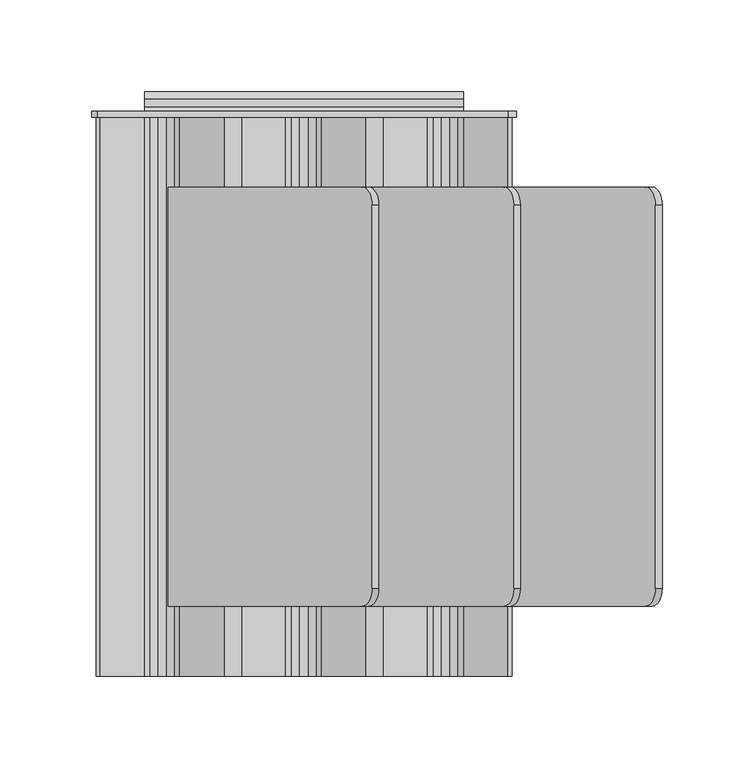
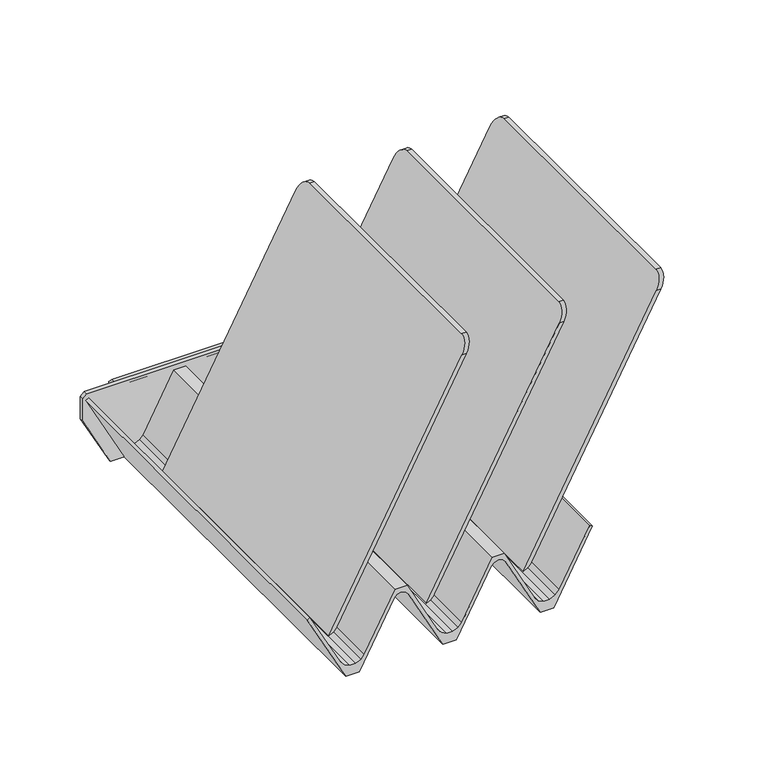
"""IFC4 building model written with IfcOpenShell, lengths in millimetres: furniture geometry."""

from ifc_helpers import new_model, si_unit, point, frame, frame_2d, origin, place, context, project, spatial, polyline, circle_curve, ellipse_curve, trimmed, segment, composite_curve, outline, extrude, source, transform, mapped, element, save
from ifc_brep_helpers import plane_surface, cylinder_surface, advanced_brep


def furniture_cc1b62bf(model_context):
    return source(origin(), model_context, "Body", "SolidModel", [
        advanced_brep(
        [(-78.5076305, -115.8875182, 768.35), (-74.9117341, -115.8875182, 768.35), (35.3237269, -115.8875182, 975.6727434), (31.7278836, -115.8875182, 975.6727434), (-74.9117341, 112.7124864, 768.35), (-78.5076305, 112.7124864, 768.35), (31.7278836, 112.7124864, 975.6727434), (35.3237269, 112.7124864, 975.6727434), (40.728424, 102.8883555, 985.8375), (40.728424, -105.9830355, 985.8375), (37.1325833, 102.8883555, 985.8375), (37.1325833, -105.9830355, 985.8375)],
        [
            (0, 1),
            (1, 2),
            (2, 3),
            (3, 0),
            (4, 5),
            (5, 6),
            (6, 7),
            (7, 4),
            (0, 5),
            (4, 1),
            (7, 8, ellipse_curve(frame((35.3237269, 102.5418246, 975.6727434), z_axis=(0.8829475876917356, 0.0, -0.46947157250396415), x_axis=(-0.4694715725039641, 0.0, -0.8829475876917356)), 11.518987, 10.1706618)),
            (8, 9),
            (9, 2, ellipse_curve(frame((35.3237269, -105.7193418, 975.6727434), z_axis=(0.8829475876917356, 0.0, -0.46947157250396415), x_axis=(-0.4694715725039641, 0.0, -0.8829475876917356)), 11.5161721, 10.1681764)),
            (8, 10),
            (10, 11),
            (11, 9),
            (3, 11, ellipse_curve(frame((31.7278836, -105.7193418, 975.6727434), z_axis=(-0.8829474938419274, 0.0, 0.46947174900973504), x_axis=(-0.46947174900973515, 0.0, -0.8829474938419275)), 11.5161734, 10.1681764)),
            (10, 6, ellipse_curve(frame((31.7278836, 102.5418246, 975.6727434), z_axis=(-0.8829474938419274, 0.0, 0.46947174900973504), x_axis=(-0.46947174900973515, 0.0, -0.8829474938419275)), 11.5189882, 10.1706618)),
        ],
        [
            plane_surface(frame((-78.5076305, -115.8875182, 768.35), z_axis=(0.0, -1.0, 0.0), x_axis=(1.0, 0.0, 0.0))),
            plane_surface(frame((-78.5076305, 112.7124864, 768.35), z_axis=(0.0, 1.0, 0.0), x_axis=(-1.0, 0.0, 0.0))),
            plane_surface(frame((-78.5076305, -115.8875182, 768.35), z_axis=(0.0, 0.0, -1.0), x_axis=(0.0, 1.0, 0.0))),
            plane_surface(frame((-74.9117341, -115.8875182, 768.35), z_axis=(0.8829475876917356, 0.0, -0.46947157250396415), x_axis=(0.0, 1.0, 0.0))),
            plane_surface(frame((40.728424, -115.8875182, 985.8375), z_axis=(0.0, 0.0, 1.0), x_axis=(0.0, 1.0, 0.0))),
            plane_surface(frame((37.1325833, -115.8875182, 985.8375), z_axis=(-0.8829474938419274, 0.0, 0.46947174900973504), x_axis=(0.0, 1.0, 0.0))),
            cylinder_surface(frame((0.0, 102.5418246, 975.6727434), z_axis=(-1.0, 0.0, 0.0), x_axis=(0.0, 1.0, 0.0)), 10.1706618),
            cylinder_surface(frame((0.0, -105.7193418, 975.6727434), z_axis=(-1.0, 0.0, 0.0), x_axis=(0.0, 1.0, 0.0)), 10.1681764),
        ],
        [
            (0, [[1, 2, 3, 4]]),
            (1, [[5, 6, 7, 8]]),
            (2, [[-1, 9, -5, 10]]),
            (3, [[-10, -8, 11, 12, 13, -2]]),
            (4, [[-12, 14, 15, 16]]),
            (5, [[-9, -4, 17, -15, 18, -6]]),
            (6, [[-7, -18, -14, -11]]),
            (7, [[-3, -13, -16, -17]]),
        ],
    ),
        advanced_brep(
        [(-0.9107932, -115.8875182, 768.35), (2.3550823, -115.8875182, 768.35), (112.5905464, -115.8875182, 975.6727434), (109.0097063, -115.8875182, 975.6727434), (2.3550823, 112.7124864, 768.35), (-0.9107932, 112.7124864, 768.35), (109.0097063, 112.7124864, 975.6727434), (112.5905464, 112.7124864, 975.6727434), (117.9952436, 102.8883555, 985.8375), (117.9952436, -105.9830355, 985.8375), (114.3989613, 102.8883555, 985.8375), (114.3989613, -105.9830355, 985.8375)],
        [
            (0, 1),
            (1, 2),
            (2, 3),
            (3, 0),
            (4, 5),
            (5, 6),
            (6, 7),
            (7, 4),
            (0, 5),
            (4, 1),
            (7, 8, ellipse_curve(frame((112.5905464, 102.5418246, 975.6727434), z_axis=(0.8829475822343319, 0.0, -0.46947158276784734), x_axis=(-0.4694715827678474, 0.0, -0.8829475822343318)), 11.518987, 10.1706618)),
            (8, 9),
            (9, 2, ellipse_curve(frame((112.5905464, -105.7193418, 975.6727434), z_axis=(0.8829475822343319, 0.0, -0.46947158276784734), x_axis=(-0.4694715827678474, 0.0, -0.8829475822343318)), 11.5161722, 10.1681764)),
            (8, 10),
            (10, 11),
            (11, 9),
            (3, 11, ellipse_curve(frame((109.0097063, -105.7193418, 975.6727434), z_axis=(-0.88350333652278, 0.0, 0.46842486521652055), x_axis=(-0.46842486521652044, 0.0, -0.88350333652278)), 11.5089281, 10.1681764)),
            (10, 6, ellipse_curve(frame((109.0097063, 102.5418246, 975.6727434), z_axis=(-0.88350333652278, 0.0, 0.46842486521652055), x_axis=(-0.46842486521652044, 0.0, -0.88350333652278)), 11.5117412, 10.1706618)),
        ],
        [
            plane_surface(frame((-78.5076305, -115.8875182, 768.35), z_axis=(0.0, -1.0, 0.0), x_axis=(1.0, 0.0, 0.0))),
            plane_surface(frame((-78.5076305, 112.7124864, 768.35), z_axis=(0.0, 1.0, 0.0), x_axis=(-1.0, 0.0, 0.0))),
            plane_surface(frame((-0.9107932, -115.8875182, 768.35), z_axis=(0.0, 0.0, -1.0), x_axis=(0.0, 1.0, 0.0))),
            plane_surface(frame((2.3550823, -115.8875182, 768.35), z_axis=(0.8829475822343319, 0.0, -0.46947158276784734), x_axis=(0.0, 1.0, 0.0))),
            plane_surface(frame((117.9952436, -115.8875182, 985.8375), z_axis=(0.0, 0.0, 1.0), x_axis=(0.0, 1.0, 0.0))),
            plane_surface(frame((114.3989613, -115.8875182, 985.8375), z_axis=(-0.88350333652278, 0.0, 0.46842486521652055), x_axis=(0.0, 1.0, 0.0))),
            cylinder_surface(frame((0.0, 102.5418246, 975.6727434), z_axis=(-1.0, 0.0, 0.0), x_axis=(0.0, 1.0, 0.0)), 10.1706618),
            cylinder_surface(frame((0.0, -105.7193418, 975.6727434), z_axis=(-1.0, 0.0, 0.0), x_axis=(0.0, 1.0, 0.0)), 10.1681764),
        ],
        [
            (0, [[1, 2, 3, 4]]),
            (1, [[5, 6, 7, 8]]),
            (2, [[-1, 9, -5, 10]]),
            (3, [[-10, -8, 11, 12, 13, -2]]),
            (4, [[-12, 14, 15, 16]]),
            (5, [[-9, -4, 17, -15, 18, -6]]),
            (6, [[-7, -18, -14, -11]]),
            (7, [[-3, -13, -16, -17]]),
        ],
    ),
        advanced_brep(
        [(76.0259689, -115.8875182, 768.35), (79.7811739, -115.8875182, 768.35), (190.0166176, -115.8875182, 975.6727434), (186.2614289, -115.8875182, 975.6727434), (79.7811739, 112.7124864, 768.35), (76.0259689, 112.7124864, 768.35), (186.2614289, 112.7124864, 975.6727434), (190.0166176, 112.7124864, 975.6727434), (195.4213139, 102.8883555, 985.8375), (195.4213139, -105.9830355, 985.8375), (191.666126, 102.8883555, 985.8375), (191.666126, -105.9830355, 985.8375)],
        [
            (0, 1),
            (1, 2),
            (2, 3),
            (3, 0),
            (4, 5),
            (5, 6),
            (6, 7),
            (7, 4),
            (0, 5),
            (4, 1),
            (7, 8, ellipse_curve(frame((190.0166176, 102.5418246, 975.6727434), z_axis=(0.8829476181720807, 0.0, -0.4694715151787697), x_axis=(-0.46947151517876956, 0.0, -0.8829476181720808)), 11.5189866, 10.1706618)),
            (8, 9),
            (9, 2, ellipse_curve(frame((190.0166176, -105.7193418, 975.6727434), z_axis=(0.8829476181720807, 0.0, -0.4694715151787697), x_axis=(-0.46947151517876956, 0.0, -0.8829476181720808)), 11.5161717, 10.1681764)),
            (8, 10),
            (10, 11),
            (11, 9),
            (3, 11, ellipse_curve(frame((186.2614289, -105.7193418, 975.6727434), z_axis=(-0.8829475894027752, 0.0, 0.46947156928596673), x_axis=(-0.4694715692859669, 0.0, -0.8829475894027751)), 11.5161721, 10.1681764)),
            (10, 6, ellipse_curve(frame((186.2614289, 102.5418246, 975.6727434), z_axis=(-0.8829475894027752, 0.0, 0.46947156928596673), x_axis=(-0.4694715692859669, 0.0, -0.8829475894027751)), 11.5189869, 10.1706618)),
        ],
        [
            plane_surface(frame((-78.5076305, -115.8875182, 768.35), z_axis=(0.0, -1.0, 0.0), x_axis=(1.0, 0.0, 0.0))),
            plane_surface(frame((-78.5076305, 112.7124864, 768.35), z_axis=(0.0, 1.0, 0.0), x_axis=(-1.0, 0.0, 0.0))),
            plane_surface(frame((76.0259689, -115.8875182, 768.35), z_axis=(0.0, 0.0, -1.0), x_axis=(0.0, 1.0, 0.0))),
            plane_surface(frame((79.7811739, -115.8875182, 768.35), z_axis=(0.8829476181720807, 0.0, -0.4694715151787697), x_axis=(0.0, 1.0, 0.0))),
            plane_surface(frame((195.4213139, -115.8875182, 985.8375), z_axis=(0.0, 0.0, 1.0), x_axis=(0.0, 1.0, 0.0))),
            plane_surface(frame((191.666126, -115.8875182, 985.8375), z_axis=(-0.8829475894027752, 0.0, 0.46947156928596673), x_axis=(0.0, 1.0, 0.0))),
            cylinder_surface(frame((0.0, 102.5418246, 975.6727434), z_axis=(-1.0, 0.0, 0.0), x_axis=(0.0, 1.0, 0.0)), 10.1706618),
            cylinder_surface(frame((0.0, -105.7193418, 975.6727434), z_axis=(-1.0, 0.0, 0.0), x_axis=(0.0, 1.0, 0.0)), 10.1681764),
        ],
        [
            (0, [[1, 2, 3, 4]]),
            (1, [[5, 6, 7, 8]]),
            (2, [[-1, 9, -5, 10]]),
            (3, [[-10, -8, 11, 12, 13, -2]]),
            (4, [[-12, 14, 15, 16]]),
            (5, [[-9, -4, 17, -15, 18, -6]]),
            (6, [[-7, -18, -14, -11]]),
            (7, [[-3, -13, -16, -17]]),
        ],
    ),
        extrude(outline(polyline([(826.5365504, -113.3404132), (768.35, -82.6180755), (768.35, -71.8286766), (820.8740623, -44.096121), (823.1406431, -41.9545616), (824.0523762, -38.676187), (823.1406431, -35.3978079), (820.6672571, -33.0608503), (768.35, -5.4374818), (768.35, 5.4381185), (820.8740614, 33.170679), (823.1406431, 35.3122394), (824.0523762, 38.5906094), (823.1406431, 41.8689885), (820.6114359, 44.2586883), (768.35, 71.9155202), (768.35, 82.7049229), (826.536546, 113.4272483), (827.6528432, 111.3130508), (782.2055096, 87.1482781), (778.5501541, 84.0519156), (776.5357104, 79.7054876), (776.5357104, 74.9149551), (778.5501541, 70.5685271), (782.3105361, 67.3831993), (827.7224984, 43.2968127), (827.7224984, 33.9240014), (781.7004275, 9.4536309), (778.5501541, 6.7851111), (776.5357104, 2.4386922), (776.5357104, -2.3518493), (778.9854746, -6.6982682), (782.5449621, -9.9738698), (827.7224984, -33.8274808), (827.7224984, -43.3428158), (781.7003747, -67.8132137), (778.5501541, -70.4816887), (776.5357104, -74.8281031), (776.5357104, -79.6186492), (778.5501541, -83.9650636), (782.2055262, -87.0614424), (827.722503, -111.0942793), (826.5365504, -113.3404132)])), frame((0.0, -153.9875, 0.0), z_axis=(0.0, 1.0, 0.0), x_axis=(0.0, 0.0, 1.0)), (0.0, 0.0, 1.0), 304.7999878),
        extrude(outline(polyline([(828.6749994, -115.844077), (810.0399607, -115.844077), (768.35, -93.8318941), (768.35, 93.918737), (810.0399607, 115.930929), (828.6749984, 115.930929), (831.8499985, 111.5932577), (831.8499985, -112.669078), (828.6749994, -115.844077)])), frame((0.0, 150.8124878, 0.0), z_axis=(0.0, 1.0, 0.0), x_axis=(0.0, 0.0, 1.0)), (0.0, 0.0, 1.0), 3.1750122),
        extrude(outline(composite_curve([segment(polyline([(164.6784774, 824.8612114), (164.6784774, 822.2834605)]), True, "CONTINUOUS"), segment(trimmed(circle_curve(frame_2d((162.7734784, 822.2834605)), 1.904999), [point((164.6784774, 822.2834605))], [point((160.8684793, 822.2834605))], False, "CARTESIAN"), True, "CONTINUOUS"), segment(polyline([(160.8684793, 822.2834605), (160.8684793, 824.8612114), (156.5435882, 824.8612114), (153.9875, 822.3051232), (153.9875, 831.8499985), (156.5435882, 828.6712113), (160.8684775, 828.6712113), (164.6784774, 824.8612114)]), True, "CONTINUOUS")], self_intersect=False)), frame((-87.0345642, 0.0, 0.0), z_axis=(1.0, 0.0, 0.0), x_axis=(0.0, 1.0, 0.0)), (0.0, 0.0, 1.0), 174.0691284),
    ])


if __name__ == "__main__":
    model = new_model("IFC4")
    model_context = context("Model", 3, world=origin())
    ifc_project = project(units=[si_unit("LENGTHUNIT", "METRE", prefix="MILLI")], contexts=[model_context])
    site = spatial("IfcSite", under=ifc_project)
    building = spatial("IfcBuilding", under=site)
    placement = place(None, origin())
    furniture_shape = furniture_cc1b62bf(model_context)
    element("IfcFurniture", 1, ObjectType="HermanMiller_ThrivePortfolio_Y7218_DiagonalTray : 8 1/2\"H x 12\"D x 13\"W", at=placement, inside=building, context=model_context, shape_type="MappedRepresentation", body=[
        mapped(furniture_shape, transform((0.0, 0.0, 0.0), x_axis=(1.0, 0.0, 0.0), y_axis=(0.0, 1.0, 0.0), z_axis=(0.0, 0.0, 1.0))),
    ])
    save(model, "model.ifc")
